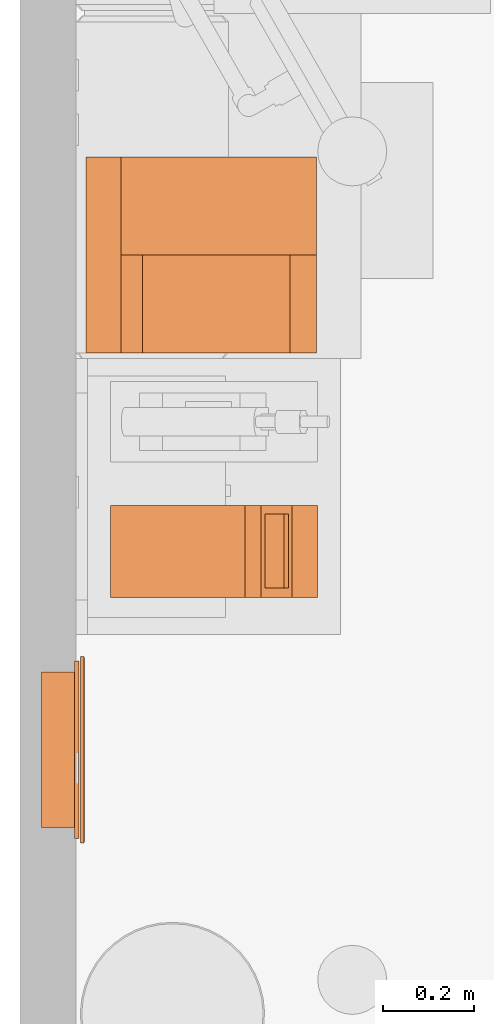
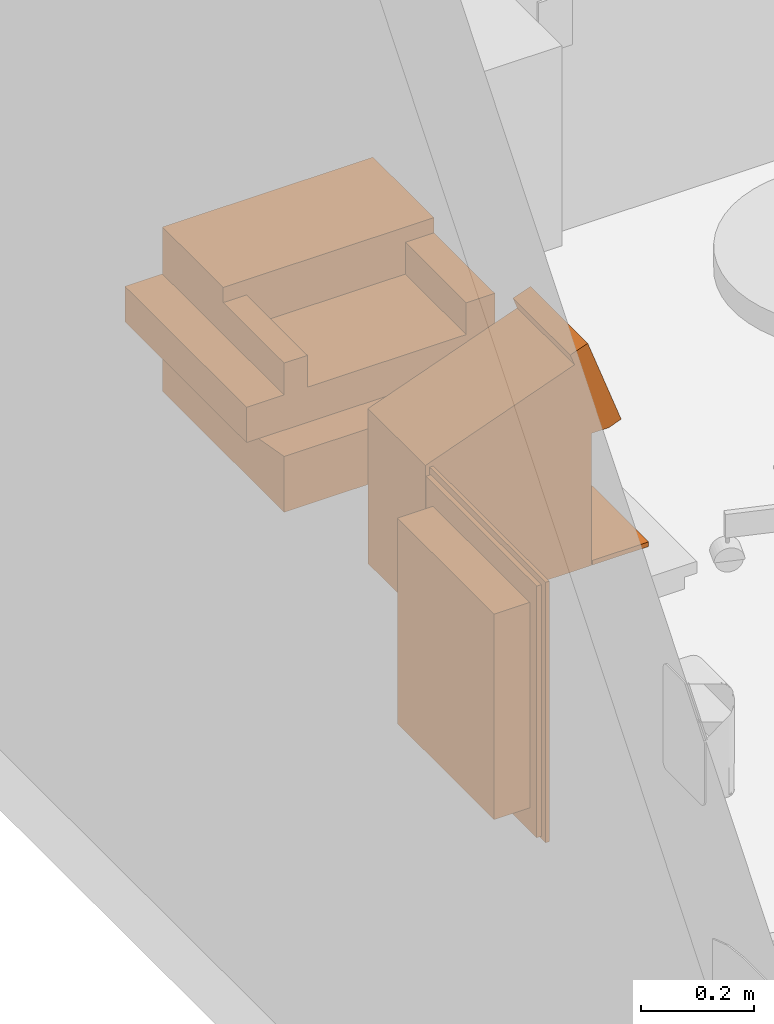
# One storey, part 10 of 12: 3 proxies.
"""IFC2X3 building model written with IfcOpenShell, lengths in feet."""

import ifcopenshell
import ifcopenshell.guid

model = None  # the IFC model being written
_history = None  # IfcOwnerHistory: only IFC2X3 demands one
_inside = {}  # id of a spatial element -> (the spatial element, [elements in it])
_under = {}  # id of a project, library or spatial element -> (it, [spatial elements below it])
_declared = {}  # id of a project -> (the project, [libraries it declares])
_typed = {}  # id of a type object -> (the type object, [elements of that type])
_made_of = {}  # id of a material, layer set ... -> (it, [elements and type objects made of it])


def new_model(schema):
    """Start an empty IFC model of exactly this schema.

    Asked for "IFC4X3", IfcOpenShell would pick the latest addendum, in which some entities
    have other attributes; the version numbers below select the first issue.
    IFC2X3 requires an IfcOwnerHistory on every rooted entity: one is made here for all.
    """
    global model, _history
    if schema == "IFC4X3":
        model = ifcopenshell.file(schema_version=(4, 3, 0, 0))
    else:
        model = ifcopenshell.file(schema=schema)
    _inside.clear()
    _under.clear()
    _declared.clear()
    _typed.clear()
    _made_of.clear()
    _history = None
    if model.schema == "IFC2X3":
        org = make("IfcOrganization", Name="unknown")
        user = make(
            "IfcPersonAndOrganization",
            ThePerson=make("IfcPerson", FamilyName="unknown"),
            TheOrganization=org,
        )
        app = make(
            "IfcApplication",
            ApplicationDeveloper=org,
            Version="unknown",
            ApplicationFullName="unknown",
            ApplicationIdentifier="unknown",
        )
        _history = make(
            "IfcOwnerHistory",
            OwningUser=user,
            OwningApplication=app,
            ChangeAction="ADDED",
            CreationDate=0,
        )
    return model


def make(cls, **values):
    """One entity of the class cls with the attributes given. An attribute that is None is left unset."""
    return model.create_entity(
        cls, **{name: value for name, value in values.items() if value is not None}
    )


def entity(cls, *values):
    """Any entity or typed value of the class cls, its attributes in the order of the schema. None: left unset."""
    e = model.create_entity(cls)
    for i, value in enumerate(values):
        if value is not None:
            e[i] = value
    return e


def rooted(cls, **values):
    """An entity with a GlobalId (a new one), such as an element, a storey or a relation."""
    return make(cls, GlobalId=ifcopenshell.guid.new(), OwnerHistory=_history, **values)


def si_unit(unit_type, name, prefix=None):
    """IfcSIUnit, for example si_unit("LENGTHUNIT", "METRE", prefix="MILLI")."""
    return make("IfcSIUnit", UnitType=unit_type, Prefix=prefix, Name=name)


def converted_unit(unit_type, name, factor, base, dimensions=None, offset=None):
    """IfcConversionBasedUnit, such as the inch: factor (a typed value) times the base unit."""
    return make(
        "IfcConversionBasedUnit"
        if offset is None
        else "IfcConversionBasedUnitWithOffset",
        ConversionOffset=offset,
        Dimensions=None
        if dimensions is None
        else entity("IfcDimensionalExponents", *dimensions),
        UnitType=unit_type,
        Name=name,
        ConversionFactor=make(
            "IfcMeasureWithUnit", ValueComponent=factor, UnitComponent=base
        ),
    )


def derived_unit(unit_type, elements):
    """IfcDerivedUnit: a product of units, each with its exponent."""
    return make(
        "IfcDerivedUnit",
        Elements=[
            make("IfcDerivedUnitElement", Unit=unit, Exponent=power)
            for unit, power in elements
        ],
        UnitType=unit_type,
    )


def assignment(units):
    """IfcUnitAssignment: the units of a project."""
    return None if units is None else make("IfcUnitAssignment", Units=units)


def point(xyz):
    """IfcCartesianPoint."""
    return None if xyz is None else make("IfcCartesianPoint", Coordinates=xyz)


def direction(xyz):
    """IfcDirection."""
    return None if xyz is None else make("IfcDirection", DirectionRatios=xyz)


def frame(location, z_axis=None, x_axis=None):
    """IfcAxis2Placement3D, a coordinate frame: its origin and axes. An axis left out is left unset."""
    return make(
        "IfcAxis2Placement3D",
        Location=point(location),
        Axis=direction(z_axis),
        RefDirection=direction(x_axis),
    )


def origin():
    """The frame at (0, 0, 0) with its axes left unset."""
    return frame((0.0, 0.0, 0.0))


def place(relative_to, where):
    """IfcLocalPlacement: puts the frame where relative to a parent placement (None: the world)."""
    return make(
        "IfcLocalPlacement", PlacementRelTo=relative_to, RelativePlacement=where
    )


def context(
    kind, dimensions, precision=None, world=None, true_north=None, identifier=None
):
    """IfcGeometricRepresentationContext, for example the 3D "Model" context."""
    return make(
        "IfcGeometricRepresentationContext",
        ContextIdentifier=identifier,
        ContextType=kind,
        CoordinateSpaceDimension=dimensions,
        Precision=precision,
        WorldCoordinateSystem=world,
        TrueNorth=true_north,
    )


def subcontext(parent, identifier, kind, view, scale=None):
    """IfcGeometricRepresentationSubContext, for example "Body" below "Model"."""
    return make(
        "IfcGeometricRepresentationSubContext",
        ContextIdentifier=identifier,
        ContextType=kind,
        ParentContext=parent,
        TargetScale=scale,
        TargetView=view,
    )


def project(units=None, contexts=None):
    """IfcProject with its units and contexts."""
    return rooted(
        "IfcProject",
        Name="project",
        RepresentationContexts=contexts,
        UnitsInContext=assignment(units),
    )


def spatial(cls, under=None, at=None, **own):
    """A site, building, storey or space (cls), placed at a placement, below another one or the project."""
    s = rooted(cls, ObjectPlacement=at, **own)
    if under is not None:
        _under.setdefault(under.id(), (under, []))[1].append(s)
    return s


def faces_of(points, faces, orient=None, outer=None):
    """IfcFace entities. A face is a list of loops; a loop is a list of indices into points, from 0.

    orient and outer hold one flag for each loop. By default every Orientation is true, the
    first loop of a face is its IfcFaceOuterBound and the others are IfcFaceBound.
    """
    made = []
    for i, loops in enumerate(faces):
        bounds = []
        for j, loop in enumerate(loops):
            is_outer = j == 0 if outer is None else outer[i][j]
            bounds.append(
                make(
                    "IfcFaceOuterBound" if is_outer else "IfcFaceBound",
                    Bound=make("IfcPolyLoop", Polygon=[points[k] for k in loop]),
                    Orientation=True if orient is None else orient[i][j],
                )
            )
        made.append(make("IfcFace", Bounds=bounds))
    return made


def faceted_brep(points, faces, orient=None, outer=None, voids=None):
    """IfcFacetedBrep: a solid bounded by flat faces; with voids (closed shells), ...WithVoids."""
    shared = [point(p) for p in points]
    hull = make("IfcClosedShell", CfsFaces=faces_of(shared, faces, orient, outer))
    if voids is None:
        return make("IfcFacetedBrep", Outer=hull)
    return make(
        "IfcFacetedBrepWithVoids",
        Outer=hull,
        Voids=[
            make(cls, CfsFaces=faces_of(shared, fs, o, b)) for cls, fs, o, b in voids
        ],
    )


def shape(context_of_items, identifier, shape_type, items):
    """IfcShapeRepresentation: the items that make up one representation, for example the "Body"."""
    return make(
        "IfcShapeRepresentation",
        ContextOfItems=context_of_items,
        RepresentationIdentifier=identifier,
        RepresentationType=shape_type,
        Items=items,
    )


def source(mapping_origin, context_of_items, identifier, shape_type, items):
    """IfcRepresentationMap: a shape defined once, which mapped items show again and again."""
    return make(
        "IfcRepresentationMap",
        MappingOrigin=mapping_origin,
        MappedRepresentation=shape(context_of_items, identifier, shape_type, items),
    )


def transform(
    local_origin,
    x_axis=None,
    y_axis=None,
    z_axis=None,
    scale=None,
    scale2=None,
    scale3=None,
    uniform=True,
):
    """IfcCartesianTransformationOperator3D, or its non-uniform kind. x_axis, y_axis, z_axis: its Axis1, 2, 3."""
    if uniform:
        return make(
            "IfcCartesianTransformationOperator3D",
            Axis1=direction(x_axis),
            Axis2=direction(y_axis),
            LocalOrigin=point(local_origin),
            Scale=scale,
            Axis3=direction(z_axis),
        )
    return make(
        "IfcCartesianTransformationOperator3DnonUniform",
        Axis1=direction(x_axis),
        Axis2=direction(y_axis),
        LocalOrigin=point(local_origin),
        Scale=scale,
        Axis3=direction(z_axis),
        Scale2=scale2,
        Scale3=scale3,
    )


def mapped(mapping_source, mapping_target):
    """IfcMappedItem: shows the shape of a source again, moved by a transform."""
    return make(
        "IfcMappedItem", MappingSource=mapping_source, MappingTarget=mapping_target
    )


def made_of(thing, what):
    """Note that an element or type object is made of a material, layer set ...; save() writes the relation."""
    if what is not None:
        _made_of.setdefault(what.id(), (what, []))[1].append(thing)
    return thing


def type_object(cls, material=None, **own):
    """A type object (cls), such as IfcWallType, which elements share."""
    return made_of(rooted(cls, **own), material)


def type_shapes(of_type, sources):
    """Give a type object the sources (RepresentationMaps) that its elements show as mapped items."""
    of_type.RepresentationMaps = sources


def element(
    cls,
    number,
    at=None,
    inside=None,
    cuts=None,
    type_object=None,
    material=None,
    context=None,
    identifier="Body",
    shape_type=None,
    held_by="IfcProductDefinitionShape",
    body=None,
    shapes=None,
    **own,
):
    """One element of the class cls, such as IfcWall. Its Tag is "e" and its number.

    at: its placement. inside: the storey or other place that contains it. cuts: it is an
    opening in that element (IfcRelVoidsElement). A single representation is given by context,
    identifier, shape_type and body (its items); several are given by shapes. held_by: the class
    of the entity that holds the representations. save() writes the other relations.
    """
    e = rooted(cls, Tag="e%d" % number, ObjectPlacement=at, **own)
    if body is not None:
        shapes = [shape(context, identifier, shape_type, body)]
    if shapes is not None:
        e.Representation = make(held_by, Representations=shapes)
    if inside is not None:
        _inside.setdefault(inside.id(), (inside, []))[1].append(e)
    if cuts is not None:
        rooted(
            "IfcRelVoidsElement", RelatingBuildingElement=cuts, RelatedOpeningElement=e
        )
    if type_object is not None:
        _typed.setdefault(type_object.id(), (type_object, []))[1].append(e)
    return made_of(e, material)


def aggregate(whole, parts):
    """IfcRelAggregates: a whole, such as a stair, and the parts it consists of."""
    return rooted("IfcRelAggregates", RelatingObject=whole, RelatedObjects=parts)


def save(model, path):
    """Write the relations noted so far, then the file.

    IfcRelAggregates (storeys below a building ...), IfcRelContainedInSpatialStructure (elements
    in a storey), IfcRelDefinesByType, IfcRelAssociatesMaterial and IfcRelDeclares: one each for
    every whole, place, type object, material and project.
    """
    for whole, parts in _under.values():
        aggregate(whole, parts)
    for where, things in _inside.values():
        rooted(
            "IfcRelContainedInSpatialStructure",
            RelatedElements=things,
            RelatingStructure=where,
        )
    for kind, things in _typed.values():
        rooted("IfcRelDefinesByType", RelatedObjects=things, RelatingType=kind)
    for what, things in _made_of.values():
        rooted("IfcRelAssociatesMaterial", RelatedObjects=things, RelatingMaterial=what)
    for by, libraries in _declared.values():
        rooted("IfcRelDeclares", RelatingContext=by, RelatedDefinitions=libraries)
    model.write(path)


model = new_model("IFC2X3")

# Units and contexts
model_context = context("Model", 3, precision=0.0001, world=origin(), true_north=direction((6.12303176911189e-17, 1.0)))
body_context = subcontext(model_context, "Body", "Model", "MODEL_VIEW")
ifc_project = project(units=[converted_unit("LENGTHUNIT", "FOOT", entity("IfcRatioMeasure", 0.3048), si_unit("LENGTHUNIT", "METRE"), dimensions=[1, 0, 0, 0, 0, 0, 0]), converted_unit("AREAUNIT", "SQUARE FOOT", entity("IfcRatioMeasure", 0.09290304), si_unit("AREAUNIT", "SQUARE_METRE"), dimensions=[2, 0, 0, 0, 0, 0, 0]), converted_unit("VOLUMEUNIT", "CUBIC FOOT", entity("IfcRatioMeasure", 0.028316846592), si_unit("VOLUMEUNIT", "CUBIC_METRE"), dimensions=[3, 0, 0, 0, 0, 0, 0]), converted_unit("PLANEANGLEUNIT", "DEGREE", entity("IfcRatioMeasure", 0.0174532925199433), si_unit("PLANEANGLEUNIT", "RADIAN"), dimensions=[0, 0, 0, 0, 0, 0, 0]), si_unit("MASSUNIT", "GRAM", prefix="KILO"), derived_unit("MASSDENSITYUNIT", [(si_unit("MASSUNIT", "GRAM", prefix="KILO"), 1), (si_unit("LENGTHUNIT", "METRE"), -3)]), si_unit("TIMEUNIT", "SECOND"), si_unit("FREQUENCYUNIT", "HERTZ"), si_unit("THERMODYNAMICTEMPERATUREUNIT", "DEGREE_CELSIUS"), derived_unit("THERMALTRANSMITTANCEUNIT", [(si_unit("MASSUNIT", "GRAM", prefix="KILO"), 1), (si_unit("THERMODYNAMICTEMPERATUREUNIT", "KELVIN"), -1), (si_unit("TIMEUNIT", "SECOND"), -3)]), derived_unit("VOLUMETRICFLOWRATEUNIT", [(si_unit("LENGTHUNIT", "METRE"), 3), (si_unit("TIMEUNIT", "SECOND"), -1)]), si_unit("ELECTRICCURRENTUNIT", "AMPERE"), si_unit("ELECTRICVOLTAGEUNIT", "VOLT"), si_unit("POWERUNIT", "WATT"), si_unit("FORCEUNIT", "NEWTON"), si_unit("ILLUMINANCEUNIT", "LUX"), si_unit("LUMINOUSFLUXUNIT", "LUMEN"), si_unit("LUMINOUSINTENSITYUNIT", "CANDELA"), derived_unit("USERDEFINED", [(si_unit("MASSUNIT", "GRAM", prefix="KILO"), -1), (si_unit("LENGTHUNIT", "METRE"), -2), (si_unit("TIMEUNIT", "SECOND"), 3), (si_unit("LUMINOUSFLUXUNIT", "LUMEN"), 1)]), derived_unit("LINEARVELOCITYUNIT", [(si_unit("LENGTHUNIT", "METRE"), 1), (si_unit("TIMEUNIT", "SECOND"), -1)]), si_unit("PRESSUREUNIT", "PASCAL"), derived_unit("USERDEFINED", [(si_unit("LENGTHUNIT", "METRE"), -2), (si_unit("MASSUNIT", "GRAM", prefix="KILO"), 1), (si_unit("TIMEUNIT", "SECOND"), -2)])], contexts=[model_context])

# Site, building, storey, space
site_placement = place(None, origin())
site = spatial("IfcSite", under=ifc_project, at=site_placement, Name="Default", CompositionType="ELEMENT")
building_placement = place(site_placement, origin())
building = spatial("IfcBuilding", under=site, at=building_placement, Name="EYE CLINIC:  OPTHALMOLOGY AND OPTOMETRY SERVICES (Ch. 233)", CompositionType="ELEMENT")
storey_placement = place(building_placement, origin())
storey = spatial("IfcBuildingStorey", under=building, at=storey_placement, Name="DATUM", CompositionType="ELEMENT", Elevation=0.0)
space_placement = place(storey_placement, origin())
space = spatial("IfcSpace", under=storey, at=space_placement, Name="(OPPT2)", CompositionType="ELEMENT", InteriorOrExteriorSpace="INTERNAL")

# Proxies
building_element_proxy_type_1 = type_object("IfcBuildingElementProxyType", Name="M5525 - Lensometer, Soft Contact", PredefinedType="NOTDEFINED")
shared_shape_1 = source(origin(), body_context, "Body", "Brep", [
    faceted_brep([(0.666666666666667, 0.0, 0.0329552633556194), (0.666666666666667, 0.378693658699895, 0.0329552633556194), (0.0, 0.378693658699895, 0.0329552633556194), (0.0, 0.0, 0.0329552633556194), (0.666666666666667, 0.0, 0.0), (0.0, 0.0, 0.0), (0.0, 0.378693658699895, 0.0), (0.666666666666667, 0.378693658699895, 0.0)], [[[0, 1, 2, 3]], [[4, 5, 6, 7]], [[1, 0, 4, 7]], [[2, 1, 7, 6]], [[3, 2, 6, 5]], [[0, 3, 5, 4]]]),
    faceted_brep([(0.604166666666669, 0.431172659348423, 1.48824402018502), (0.604166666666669, 0.262402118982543, 1.02455077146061), (0.0668703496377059, 0.262402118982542, 1.02455077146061), (0.0668703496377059, 0.431172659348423, 1.48824402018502), (0.604166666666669, 0.412864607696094, 1.49490760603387), (0.0668703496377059, 0.412864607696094, 1.49490760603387), (0.0668703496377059, 0.244094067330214, 1.03121435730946), (0.604166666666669, 0.244094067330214, 1.03121435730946)], [[[0, 1, 2, 3]], [[4, 5, 6, 7]], [[1, 0, 4, 7]], [[2, 1, 7, 6]], [[3, 2, 6, 5]], [[0, 3, 5, 4]]]),
    faceted_brep([(0.666666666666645, 1.4999999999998, 1.09922268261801), (0.666666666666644, 0.49809582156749, 1.46388598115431), (0.666666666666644, 0.526828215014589, 1.5428275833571), (0.666666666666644, 0.409366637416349, 1.58558010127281), (0.666666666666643, 0.184534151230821, 0.967857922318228), (0.666666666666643, 0.270332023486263, 0.936630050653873), (0.666666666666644, 0.383031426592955, 0.936630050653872), (0.666666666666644, 0.383031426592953, 0.0), (0.666666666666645, 1.49999999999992, 0.0), (0.0, 1.4999999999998, 1.09922268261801), (0.0, 1.49999999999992, 0.0), (0.0, 0.383031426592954, 0.0), (0.0, 0.383031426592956, 0.936630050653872), (0.0, 0.270332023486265, 0.936630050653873), (0.0, 0.184534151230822, 0.967857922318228), (0.0, 0.40936663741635, 1.58558010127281), (0.0, 0.52682821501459, 1.5428275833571), (0.0, 0.498095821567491, 1.46388598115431), (0.604166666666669, 0.38063424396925, 1.50663849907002), (0.604166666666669, 0.211863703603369, 1.04294525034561), (0.0668703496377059, 0.21186370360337, 1.04294525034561), (0.0668703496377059, 0.380634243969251, 1.50663849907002), (0.604166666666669, 0.431172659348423, 1.48824402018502), (0.0668703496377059, 0.431172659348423, 1.48824402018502), (0.0668703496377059, 0.262402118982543, 1.02455077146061), (0.604166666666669, 0.262402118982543, 1.02455077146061)], [[[0, 1, 2, 3, 4, 5, 6, 7, 8]], [[9, 10, 11, 12, 13, 14, 15, 16, 17]], [[1, 0, 9, 17]], [[2, 1, 17, 16]], [[3, 2, 16, 15]], [[4, 3, 15, 14], [18, 19, 20, 21]], [[5, 4, 14, 13]], [[6, 5, 13, 12]], [[7, 6, 12, 11]], [[8, 7, 11, 10]], [[0, 8, 10, 9]], [[22, 23, 24, 25]], [[22, 25, 19, 18]], [[25, 24, 20, 19]], [[24, 23, 21, 20]], [[23, 22, 18, 21]]]),
    faceted_brep([(0.442851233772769, 0.380206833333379, 0.936630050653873), (0.243196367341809, 0.38020683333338, 0.936630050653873), (0.259690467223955, 0.286664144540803, 0.936630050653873), (0.27972058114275, 0.268725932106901, 0.936630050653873), (0.303484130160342, 0.25614504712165, 0.936630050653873), (0.32957961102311, 0.24966347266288, 0.936630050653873), (0.356467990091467, 0.24966347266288, 0.936630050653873), (0.382563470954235, 0.256145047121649, 0.936630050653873), (0.406327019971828, 0.2687259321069, 0.936630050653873), (0.426357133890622, 0.286664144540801, 0.936630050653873), (0.32957961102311, 0.24966347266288, 0.82727393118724), (0.303484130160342, 0.25614504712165, 0.82727393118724), (0.27972058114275, 0.268725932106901, 0.82727393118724), (0.259690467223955, 0.286664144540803, 0.82727393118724), (0.243196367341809, 0.38020683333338, 0.82727393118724), (0.442851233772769, 0.380206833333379, 0.82727393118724), (0.426357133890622, 0.286664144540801, 0.82727393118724), (0.406327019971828, 0.2687259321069, 0.82727393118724), (0.382563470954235, 0.256145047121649, 0.82727393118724), (0.356467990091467, 0.24966347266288, 0.82727393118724)], [[[0, 1, 2, 3, 4, 5, 6, 7, 8, 9]], [[10, 11, 12, 13, 14, 15, 16, 17, 18, 19]], [[3, 2, 13, 12]], [[12, 11, 4, 3]], [[10, 5, 4, 11]], [[10, 19, 6, 5]], [[19, 18, 7, 6]], [[18, 17, 8, 7]], [[8, 17, 16, 9]], [[0, 9, 16, 15]], [[1, 0, 15, 14]], [[2, 1, 14, 13]]]),
    faceted_brep([(0.35647621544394, 0.248150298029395, 0.609881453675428), (0.382571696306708, 0.254631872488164, 0.609881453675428), (0.406335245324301, 0.267212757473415, 0.609881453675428), (0.426365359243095, 0.285150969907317, 0.609881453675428), (0.442859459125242, 0.378693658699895, 0.609881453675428), (0.243204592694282, 0.378693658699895, 0.609881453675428), (0.259698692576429, 0.285150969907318, 0.609881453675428), (0.279728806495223, 0.267212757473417, 0.609881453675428), (0.303492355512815, 0.254631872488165, 0.609881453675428), (0.329587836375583, 0.248150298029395, 0.609881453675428), (0.329587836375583, 0.248150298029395, 0.467740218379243), (0.303492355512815, 0.254631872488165, 0.467740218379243), (0.279728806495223, 0.267212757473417, 0.467740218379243), (0.259698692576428, 0.285150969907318, 0.467740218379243), (0.243204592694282, 0.378693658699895, 0.467740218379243), (0.442859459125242, 0.378693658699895, 0.467740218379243), (0.426365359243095, 0.285150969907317, 0.467740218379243), (0.406335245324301, 0.267212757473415, 0.467740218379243), (0.382571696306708, 0.254631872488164, 0.467740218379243), (0.35647621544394, 0.248150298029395, 0.467740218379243)], [[[0, 1, 2, 3, 4, 5, 6, 7, 8, 9]], [[10, 11, 12, 13, 14, 15, 16, 17, 18, 19]], [[7, 6, 13, 12]], [[7, 12, 11, 8]], [[8, 11, 10, 9]], [[10, 19, 0, 9]], [[0, 19, 18, 1]], [[1, 18, 17, 2]], [[2, 17, 16, 3]], [[4, 3, 16, 15]], [[5, 4, 15, 14]], [[6, 5, 14, 13]]]),
])
type_shapes(building_element_proxy_type_1, [shared_shape_1])
proxy_1_placement = place(space_placement, frame((155.389769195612, 28.0780937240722, 2.99921907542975), z_axis=(0.0, 0.0, 1.0), x_axis=(0.0, 1.0, 0.0)))
element("IfcBuildingElementProxy", 1, at=proxy_1_placement, inside=space, type_object=building_element_proxy_type_1, Name="M5525 - Lensometer, Soft Contact:M5525 - Lensometer, Soft Contact", ObjectType="M5525 - Lensometer, Soft Contact", context=body_context, shape_type="MappedRepresentation", body=[
    mapped(shared_shape_1, transform((0.0, 0.0, 0.0), scale=1.0)),
])
building_element_proxy_type_2 = type_object("IfcBuildingElementProxyType", Name="M1825 - Printer, Computer", PredefinedType="NOTDEFINED")
shared_shape_2 = source(origin(), body_context, "Body", "Brep", [
    faceted_brep([(0.708333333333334, -0.833333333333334, 1.16666666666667), (0.708333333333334, 0.581380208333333, 1.16666666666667), (0.0, 0.581380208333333, 1.16666666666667), (0.0, -0.833333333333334, 1.16666666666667), (-0.708333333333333, -0.833333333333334, 0.0), (-0.708333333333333, 0.581380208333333, 0.0), (0.708333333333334, 0.581380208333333, 0.0), (0.708333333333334, -0.833333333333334, 0.0), (0.0, -0.833333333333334, 1.05907956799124), (-0.708333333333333, -0.833333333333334, 1.05907956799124), (-0.708333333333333, -0.833333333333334, 0.583333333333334), (0.0, -0.833333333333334, 0.583333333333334), (0.0, -0.833333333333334, 0.269898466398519), (-0.708333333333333, -0.833333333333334, 0.395998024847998), (-0.708333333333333, -0.641381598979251, 1.05907956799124), (-0.708333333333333, -0.641381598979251, 0.833333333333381), (-0.708333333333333, 0.425130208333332, 0.833333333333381), (-0.708333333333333, 0.425130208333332, 1.05907956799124), (-0.708333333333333, 0.581380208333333, 1.05907956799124), (-0.708333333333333, 0.581380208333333, 0.833333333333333), (-0.708333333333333, 0.833333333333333, 0.833333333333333), (-0.708333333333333, 0.833333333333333, 0.583333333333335), (0.708333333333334, 0.833333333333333, 0.833333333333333), (0.708333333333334, 0.833333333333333, 0.58333333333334), (0.708333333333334, 0.581380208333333, 0.58333333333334), (0.708333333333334, 0.581380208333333, 0.833333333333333), (0.0, 0.425130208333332, 1.05907956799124), (0.0, 0.581380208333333, 1.05907956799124), (0.0, 0.425130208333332, 0.833333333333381), (0.0, -0.641381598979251, 0.833333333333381), (0.0, -0.641381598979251, 1.05907956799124), (0.0, 0.581380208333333, 0.583333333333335), (0.0, 0.581380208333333, 0.26989846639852), (-0.708333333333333, 0.581380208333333, 0.395998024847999)], [[[0, 1, 2, 3]], [[4, 5, 6, 7]], [[7, 0, 3, 8, 9, 10, 11, 12, 13, 4]], [[14, 15, 16, 17, 18, 19, 20, 21, 10, 9]], [[22, 23, 21, 20]], [[7, 6, 24, 23, 22, 25, 1, 0]], [[26, 27, 18, 17]], [[3, 2, 27, 26, 28, 29, 30, 8]], [[28, 26, 17, 16]], [[28, 16, 15, 29]], [[15, 14, 30, 29]], [[25, 22, 20, 19]], [[19, 18, 27, 2, 1, 25]], [[10, 21, 23, 24, 31, 11]], [[12, 32, 33, 13]], [[11, 31, 32, 12]], [[24, 6, 5, 33, 32, 31]], [[8, 30, 14, 9]], [[13, 33, 5, 4]]]),
])
type_shapes(building_element_proxy_type_2, [shared_shape_2])
proxy_2_placement = place(space_placement, frame((154.546019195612, 30.5576256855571, 2.66666666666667), z_axis=(0.0, 0.0, 1.0), x_axis=(0.0, 1.0, 0.0)))
element("IfcBuildingElementProxy", 2, at=proxy_2_placement, inside=space, type_object=building_element_proxy_type_2, Name="M1825 - Printer, Computer:M1825 - Printer, Computer", ObjectType="M1825 - Printer, Computer", context=body_context, shape_type="MappedRepresentation", body=[
    mapped(shared_shape_2, transform((0.0, 0.0, 0.0), scale=1.0)),
])
building_element_proxy_type_3 = type_object("IfcBuildingElementProxyType", Name="A5048 - Cabinet, Medication, Security, Wall Mounted", PredefinedType="NOTDEFINED")
shared_shape_3 = source(origin(), body_context, "Body", "Brep", [
    faceted_brep([(-0.664083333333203, -0.914083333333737, 0.0729166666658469), (-0.664083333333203, -0.914083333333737, 0.0663549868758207), (-0.664083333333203, 0.914083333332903, 0.0663549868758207), (-0.664083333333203, 0.914083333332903, 0.0729166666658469), (-0.674499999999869, -0.924500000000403, 0.0663549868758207), (-0.674499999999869, 0.924499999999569, 0.0663549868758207), (0.664083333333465, 0.914083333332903, 0.0663549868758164), (0.664083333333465, 0.914083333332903, 0.0729166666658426), (0.674500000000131, 0.924499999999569, 0.0663549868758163), (0.664083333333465, -0.914083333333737, 0.0663549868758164), (0.664083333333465, -0.914083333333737, 0.0729166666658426), (0.674500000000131, -0.924500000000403, 0.0663549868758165)], [[[0, 1, 2, 3]], [[4, 0, 3, 5]], [[3, 2, 6, 7]], [[5, 3, 7, 8]], [[7, 6, 9, 10]], [[8, 7, 10, 11]], [[10, 9, 1, 0]], [[11, 10, 0, 4]], [[5, 8, 11, 4], [1, 9, 6, 2]]]),
    faceted_brep([(0.664083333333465, 0.914083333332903, 0.0729166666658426), (-0.664083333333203, 0.914083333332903, 0.0729166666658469), (-0.664083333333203, -0.914083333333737, 0.0729166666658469), (0.664083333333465, -0.914083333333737, 0.0729166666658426), (0.664083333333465, 0.914083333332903, 0.0663549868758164), (0.664083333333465, -0.914083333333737, 0.0663549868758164), (-0.664083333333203, -0.914083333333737, 0.0663549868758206), (-0.664083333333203, 0.914083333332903, 0.0663549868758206)], [[[0, 1, 2, 3]], [[4, 5, 6, 7]], [[1, 0, 4, 7]], [[2, 1, 7, 6]], [[3, 2, 6, 5]], [[0, 3, 5, 4]]]),
    faceted_brep([(0.674500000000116, 0.924499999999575, 0.0663549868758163), (-0.674499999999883, 0.924499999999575, 0.0663549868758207), (-0.674499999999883, -0.924500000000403, 0.0663549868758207), (0.674500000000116, -0.924500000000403, 0.0663549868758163), (0.674500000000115, 0.924499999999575, 0.0416666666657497), (0.674500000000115, -0.924500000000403, 0.0416666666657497), (-0.674499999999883, -0.924500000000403, 0.0416666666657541), (-0.674499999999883, 0.924499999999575, 0.0416666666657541)], [[[0, 1, 2, 3]], [[4, 5, 6, 7]], [[1, 0, 4, 7]], [[2, 1, 7, 6]], [[3, 2, 6, 5]], [[0, 3, 5, 4]]]),
    faceted_brep([(0.643250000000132, 0.89324999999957, 0.0312499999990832), (0.538127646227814, 0.666666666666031, 0.0312499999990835), (0.548533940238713, 0.641543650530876, 0.0312499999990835), (0.521573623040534, 0.688240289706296, 0.0312499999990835), (0.552083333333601, 0.614583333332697, 0.0312499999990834), (0.552083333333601, -0.61458333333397, 0.0312499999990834), (0.500000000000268, 0.704794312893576, 0.0312499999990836), (0.474876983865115, 0.715200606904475, 0.0312499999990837), (0.447916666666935, 0.718749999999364, 0.0312499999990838), (-0.447916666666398, 0.718749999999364, 0.0312499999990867), (0.643250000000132, -0.893250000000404, 0.0312499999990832), (-0.643249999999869, 0.89324999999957, 0.0312499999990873), (-0.474876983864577, 0.715200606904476, 0.0312499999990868), (-0.499999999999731, 0.704794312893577, 0.0312499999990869), (-0.521573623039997, 0.688240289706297, 0.0312499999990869), (-0.538127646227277, 0.666666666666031, 0.031249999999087), (-0.548533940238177, 0.641543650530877, 0.031249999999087), (-0.552083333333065, 0.614583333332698, 0.031249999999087), (-0.552083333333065, -0.614583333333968, 0.031249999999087), (-0.643249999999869, -0.893250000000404, 0.0312499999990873), (-0.548533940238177, -0.641543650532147, 0.031249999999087), (-0.538127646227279, -0.666666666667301, 0.031249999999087), (-0.521573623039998, -0.688240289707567, 0.0312499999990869), (-0.499999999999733, -0.704794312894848, 0.0312499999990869), (-0.474876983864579, -0.715200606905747, 0.0312499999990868), (-0.447916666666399, -0.718750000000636, 0.0312499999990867), (0.548533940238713, -0.641543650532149, 0.0312499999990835), (0.538127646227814, -0.666666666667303, 0.0312499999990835), (0.521573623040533, -0.688240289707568, 0.0312499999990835), (0.500000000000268, -0.704794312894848, 0.0312499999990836), (0.474876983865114, -0.715200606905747, 0.0312499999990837), (0.447916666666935, -0.718750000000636, 0.0312499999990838), (-0.562499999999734, -0.729166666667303, -0.239583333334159), (-0.562499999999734, 0.729166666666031, -0.239583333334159), (0.562500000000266, 0.729166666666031, -0.239583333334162), (0.562500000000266, -0.729166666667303, -0.239583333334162), (-0.562499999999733, 0.729166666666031, 0.0), (0.562500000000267, 0.729166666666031, 0.0), (-0.562499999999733, -0.729166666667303, 0.0), (0.562500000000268, -0.729166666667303, 0.0), (-0.643249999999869, 0.89324999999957, 0.0), (-0.643249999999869, -0.893250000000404, 0.0), (0.643250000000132, 0.89324999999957, 0.0), (0.643250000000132, -0.893250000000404, 0.0), (-0.548533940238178, 0.641543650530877, -0.229166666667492), (-0.552083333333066, 0.614583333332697, -0.229166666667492), (-0.552083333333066, -0.614583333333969, -0.229166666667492), (-0.548533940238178, -0.641543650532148, -0.229166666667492), (-0.538127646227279, -0.666666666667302, -0.229166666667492), (-0.521573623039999, -0.688240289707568, -0.229166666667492), (-0.499999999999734, -0.704794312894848, -0.229166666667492), (-0.47487698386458, -0.715200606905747, -0.229166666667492), (-0.4479166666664, -0.718750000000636, -0.229166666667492), (0.447916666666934, -0.718750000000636, -0.229166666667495), (0.474876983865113, -0.715200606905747, -0.229166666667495), (0.500000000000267, -0.704794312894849, -0.229166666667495), (0.521573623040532, -0.688240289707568, -0.229166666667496), (0.538127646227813, -0.666666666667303, -0.229166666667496), (0.548533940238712, -0.641543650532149, -0.229166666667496), (0.552083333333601, -0.61458333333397, -0.229166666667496), (0.552083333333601, 0.614583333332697, -0.229166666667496), (0.548533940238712, 0.641543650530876, -0.229166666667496), (0.538127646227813, 0.66666666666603, -0.229166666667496), (0.521573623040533, 0.688240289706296, -0.229166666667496), (0.500000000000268, 0.704794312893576, -0.229166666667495), (0.474876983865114, 0.715200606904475, -0.229166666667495), (0.447916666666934, 0.718749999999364, -0.229166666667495), (-0.4479166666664, 0.718749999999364, -0.229166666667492), (-0.474876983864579, 0.715200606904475, -0.229166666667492), (-0.499999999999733, 0.704794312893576, -0.229166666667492), (-0.521573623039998, 0.688240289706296, -0.229166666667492), (-0.538127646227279, 0.666666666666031, -0.229166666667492)], [[[0, 1, 2]], [[1, 0, 3]], [[2, 4, 0]], [[0, 4, 5]], [[6, 3, 0]], [[7, 6, 0]], [[8, 7, 0]], [[0, 9, 8]], [[5, 10, 0]], [[9, 0, 11]], [[12, 9, 11]], [[12, 11, 13]], [[14, 13, 11]], [[11, 15, 14]], [[15, 11, 16]], [[17, 16, 11]], [[11, 18, 17]], [[18, 11, 19]], [[20, 18, 19]], [[19, 21, 20]], [[21, 19, 22]], [[23, 22, 19]], [[23, 19, 24]], [[25, 24, 19]], [[25, 19, 10]], [[5, 26, 10]], [[27, 10, 26]], [[10, 27, 28]], [[28, 29, 10]], [[29, 30, 10]], [[30, 31, 10]], [[10, 31, 25]], [[32, 33, 34, 35]], [[36, 37, 34, 33]], [[38, 36, 33, 32]], [[39, 38, 32, 35]], [[37, 39, 35, 34]], [[40, 36, 38]], [[36, 40, 37]], [[38, 41, 40]], [[42, 37, 40]], [[37, 42, 39]], [[43, 39, 42]], [[39, 43, 41]], [[41, 38, 39]], [[11, 0, 42, 40]], [[19, 11, 40, 41]], [[10, 19, 41, 43]], [[0, 10, 43, 42]], [[44, 45, 46, 47, 48, 49, 50, 51, 52, 53, 54, 55, 56, 57, 58, 59, 60, 61, 62, 63, 64, 65, 66, 67, 68, 69, 70, 71]], [[66, 8, 9, 67]], [[69, 68, 12, 13]], [[70, 69, 13, 14]], [[9, 12, 68, 67]], [[44, 71, 15, 16]], [[45, 44, 16, 17]], [[15, 71, 70, 14]], [[45, 17, 18, 46]], [[48, 47, 20, 21]], [[49, 48, 21, 22]], [[18, 20, 47, 46]], [[51, 50, 23, 24]], [[52, 51, 24, 25]], [[23, 50, 49, 22]], [[52, 25, 31, 53]], [[55, 54, 30, 29]], [[56, 55, 29, 28]], [[31, 30, 54, 53]], [[58, 57, 27, 26]], [[59, 58, 26, 5]], [[27, 57, 56, 28]], [[59, 5, 4, 60]], [[62, 61, 2, 1]], [[63, 62, 1, 3]], [[4, 2, 61, 60]], [[65, 64, 6, 7]], [[66, 65, 7, 8]], [[6, 64, 63, 3]]]),
])
type_shapes(building_element_proxy_type_3, [shared_shape_3])
proxy_3_placement = place(space_placement, frame((153.629352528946, 26.9742923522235, 3.50000000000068), z_axis=(1.0, 0.0, 0.0), x_axis=(0.0, 1.0, 0.0)))
element("IfcBuildingElementProxy", 3, at=proxy_3_placement, inside=space, type_object=building_element_proxy_type_3, Name="UXXX3 - Cabinet, Medication, Security, Wall Mounted:A5048 - Cabinet, Medication, Security, Wall Mounted", ObjectType="A5048 - Cabinet, Medication, Security, Wall Mounted", context=body_context, shape_type="MappedRepresentation", body=[
    mapped(shared_shape_3, transform((0.0, 0.0, 0.0), scale=1.0)),
])

save(model, "model.ifc")
